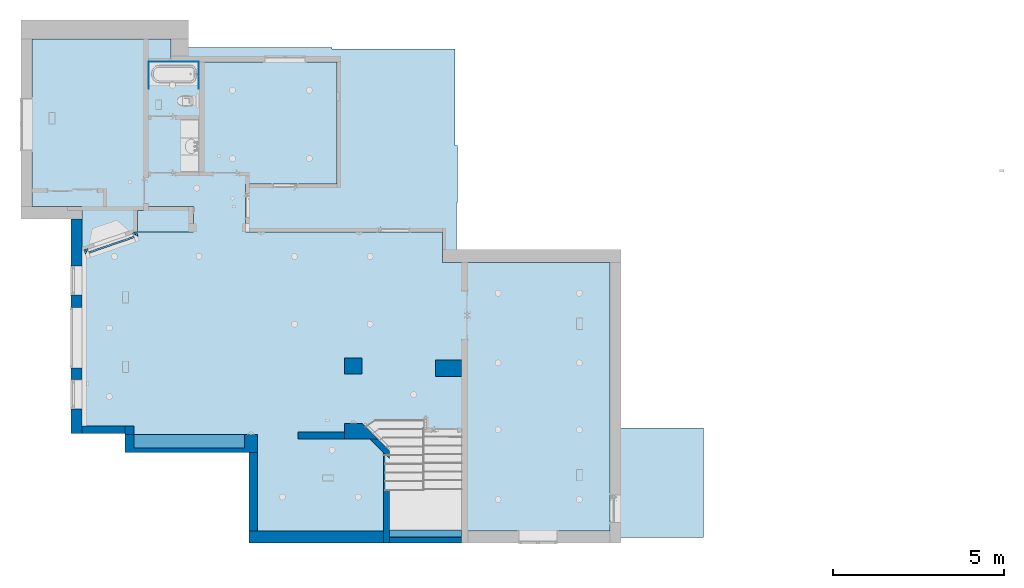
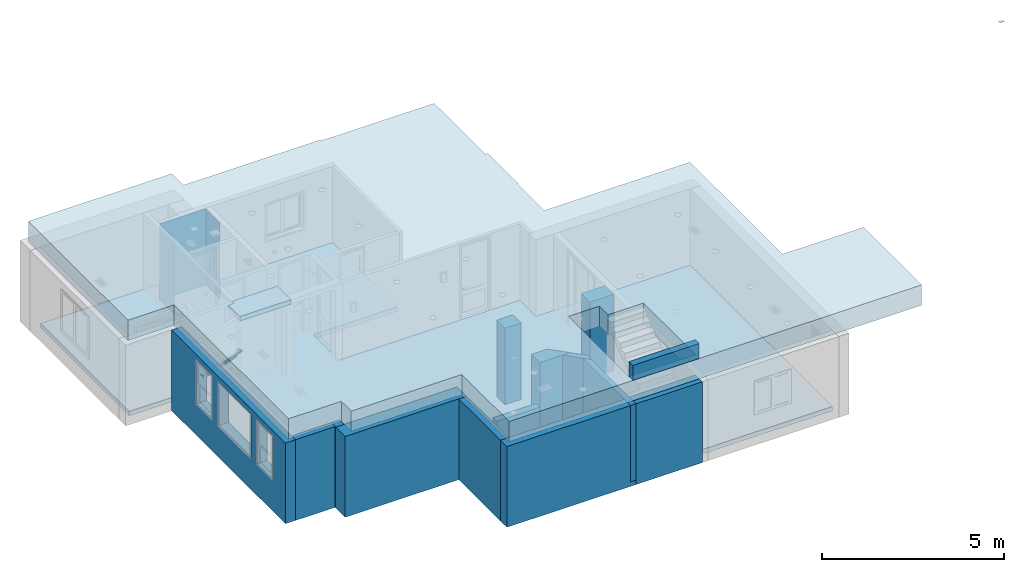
# One storey, part 1 of 24: 12 walls, 6 beams, 3 slabs, 2 columns.
"""IFC2X3 building model written with IfcOpenShell, lengths in inches."""

from ifc_helpers import new_model, entity, si_unit, converted_unit, derived_unit, money_unit, direction, frame, origin_with_axes, place, context, subcontext, project, spatial, faceted_brep, material, type_object, element, save


model = new_model("IFC2X3")

# Units and contexts
model_context = context("Model", 3, precision=0.000393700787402, world=origin_with_axes(), true_north=direction((0.0, 1.0)))
body_context = subcontext(model_context, "Body", "Model", "MODEL_VIEW")
ifc_project = project(units=[converted_unit("LENGTHUNIT", "INCH", entity("IfcPositiveLengthMeasure", 0.0254), si_unit("LENGTHUNIT", "METRE"), dimensions=[1, 0, 0, 0, 0, 0, 0]), converted_unit("AREAUNIT", "SQUARE_FOOT", entity("IfcPositiveLengthMeasure", 0.09290304), si_unit("AREAUNIT", "SQUARE_METRE"), dimensions=[2, 0, 0, 0, 0, 0, 0]), si_unit("PLANEANGLEUNIT", "RADIAN"), si_unit("SOLIDANGLEUNIT", "STERADIAN"), money_unit("USD"), converted_unit("TIMEUNIT", "Year", entity("IfcTimeMeasure", 31556926.0), si_unit("TIMEUNIT", "SECOND"), dimensions=[0, 0, 1, 0, 0, 0, 0]), si_unit("MASSUNIT", "GRAM", prefix="KILO"), si_unit("THERMODYNAMICTEMPERATUREUNIT", "DEGREE_CELSIUS"), si_unit("LUMINOUSINTENSITYUNIT", "LUMEN"), si_unit("ENERGYUNIT", "JOULE", prefix="MEGA"), derived_unit("THERMALCONDUCTANCEUNIT", [(si_unit("POWERUNIT", "WATT"), 1), (si_unit("LENGTHUNIT", "METRE"), -1), (si_unit("THERMODYNAMICTEMPERATUREUNIT", "KELVIN"), -1)]), derived_unit("SPECIFICHEATCAPACITYUNIT", [(si_unit("ENERGYUNIT", "JOULE"), 1), (si_unit("MASSUNIT", "GRAM", prefix="KILO"), -1), (si_unit("THERMODYNAMICTEMPERATUREUNIT", "KELVIN"), -1)]), derived_unit("MASSDENSITYUNIT", [(si_unit("MASSUNIT", "GRAM", prefix="KILO"), 1), (si_unit("VOLUMEUNIT", "CUBIC_METRE"), -1)])], contexts=[model_context])

# Site, building, storey
site_placement = place(None, origin_with_axes())
site = spatial("IfcSite", under=ifc_project, at=site_placement, Name="Site", CompositionType="ELEMENT")
building_placement = place(site_placement, origin_with_axes())
building = spatial("IfcBuilding", under=site, at=building_placement, Name="Building", CompositionType="ELEMENT")
storey_placement = place(building_placement, origin_with_axes())
storey = spatial("IfcBuildingStorey", under=building, at=storey_placement, Name="First Floor", CompositionType="ELEMENT", Elevation=0.0)

# Columns
ifc_material_1 = material(Name="Generic - Structural")
column_type_1 = type_object("IfcColumnType", Name="Generic - Structural 485 x 760", PredefinedType="NOTDEFINED")
column_1_placement = place(storey_placement, frame((712.090764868, 213.817471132, 0.0), z_axis=(0.0, 0.0, 1.0), x_axis=(0.0, 1.0, 0.0)))
element("IfcColumn", 1, at=column_1_placement, inside=storey, type_object=column_type_1, material=ifc_material_1, Name="C-01", context=body_context, shape_type="Brep", body=[
    faceted_brep([(-9.54724409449, -14.9606299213, 101.0), (-9.54724409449, -14.9606299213, 0.0), (9.54724409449, -14.9606299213, 0.0), (9.54724409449, -14.9606299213, 101.0), (-9.54724409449, 14.9606299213, 101.0), (-9.54724409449, 14.9606299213, 0.0), (9.54724409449, 14.9606299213, 0.0), (9.54724409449, 14.9606299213, 101.0)], [[[0, 1, 2, 3]], [[4, 5, 1, 0]], [[2, 1, 5, 6]], [[3, 2, 6, 7]], [[4, 0, 3, 7]], [[7, 6, 5, 4]]]),
])
column_type_2 = type_object("IfcColumnType", Name="Generic - Structural 455 x 510", PredefinedType="NOTDEFINED")
column_2_placement = place(storey_placement, frame((602.489171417, 216.441355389, 0.0), z_axis=(0.0, 0.0, 1.0), x_axis=(0.0, 1.0, 0.0)))
element("IfcColumn", 2, at=column_2_placement, inside=storey, type_object=column_type_2, material=ifc_material_1, Name="C-01", context=body_context, shape_type="Brep", body=[
    faceted_brep([(-8.95669291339, -10.0393700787, 101.0), (-8.95669291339, -10.0393700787, 0.0), (8.95669291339, -10.0393700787, 0.0), (8.95669291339, -10.0393700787, 101.0), (-8.95669291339, 10.0393700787, 101.0), (-8.95669291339, 10.0393700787, 0.0), (8.95669291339, 10.0393700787, 0.0), (8.95669291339, 10.0393700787, 101.0)], [[[0, 1, 2, 3]], [[4, 5, 1, 0]], [[2, 1, 5, 6]], [[3, 2, 6, 7]], [[4, 0, 3, 7]], [[7, 6, 5, 4]]]),
])

# Beams
beam_type_1 = type_object("IfcBeamType", Name="Plaster Cornice/Coving 127 x 203", PredefinedType="NOTDEFINED")
beam_1_placement = place(storey_placement, frame((297.616582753, 350.859976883, 59.0000238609), z_axis=(0.0, 0.0, 1.0), x_axis=(0.943870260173, 0.330316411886, 0.0)))
element("IfcBeam", 3, at=beam_1_placement, inside=storey, type_object=beam_type_1, material=ifc_material_1, Name="BMR - 003", context=body_context, shape_type="Brep", body=[
    faceted_brep([(-5.0000377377, -4.89337685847, -1.00000335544), (-5.0000377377, 0.872100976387, -1.00000335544), (-4.1465111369, 0.872100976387, -1.13450684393), (-4.1465111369, -4.05805769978, -1.13450684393), (-5.0000377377, -4.89337685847, 0.0), (-5.0000377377, 0.872100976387, 0.0), (-2.92895429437, 0.872100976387, 0.0), (0.0, 0.872100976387, -4.68630722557), (0.0, 0.872100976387, -8.00002684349), (-0.625004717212, 0.872100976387, -8.00002684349), (-0.707100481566, 0.872100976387, -6.65013530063), (-0.95803427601, 0.872100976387, -5.32123382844), (-1.346038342, 0.872100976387, -4.14975423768), (-1.906422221, 0.872100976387, -3.05026276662), (-2.53521723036, 0.872100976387, -2.21589584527), (-3.32578508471, 0.872100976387, -1.53284841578), (-3.32578508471, -3.25483938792, -1.53284841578), (-2.53521723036, -2.48113593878, -2.21589584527), (-1.906422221, -1.86575439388, -3.05026276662), (-1.346038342, -1.31732463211, -4.14975423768), (-0.95803427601, -0.937597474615, -5.32123382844), (-0.707100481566, -0.692016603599, -6.65013530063), (-0.625004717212, -0.611672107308, -8.00002684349), (0.0, 0.0, -8.00002684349), (0.0, 0.0, -4.68630722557), (-2.92895429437, -2.86647379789, 0.0)], [[[0, 1, 2, 3]], [[4, 5, 1, 0]], [[2, 1, 5, 6, 7, 8, 9, 10, 11, 12, 13, 14, 15]], [[3, 2, 15, 16]], [[4, 0, 3, 16, 17, 18, 19, 20, 21, 22, 23, 24, 25]], [[25, 6, 5, 4]], [[24, 7, 6, 25]], [[23, 8, 7, 24]], [[22, 9, 8, 23]], [[21, 10, 9, 22]], [[20, 11, 10, 21]], [[19, 12, 11, 20]], [[18, 13, 12, 19]], [[17, 14, 13, 18]], [[16, 15, 14, 17]]]),
])
beam_2_placement = place(storey_placement, frame((348.685584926, 368.412037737, 59.0000238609), z_axis=(0.0, 0.0, 1.0), x_axis=(0.943800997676, 0.330514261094, 0.0)))
element("IfcBeam", 4, at=beam_2_placement, inside=storey, type_object=beam_type_1, material=ifc_material_1, Name="BMR - 003", context=body_context, shape_type="Brep", body=[
    faceted_brep([(5.0000377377, -4.95036833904, 0.0), (5.0000377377, 1.17416230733, 0.0), (2.92895429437, 1.17416230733, 0.0), (2.92895429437, -2.89985863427, 0.0), (5.0000377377, -4.95036833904, -1.00000335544), (5.0000377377, 1.17416230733, -1.00000335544), (4.1465111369, 1.17416230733, -1.13450684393), (3.32578508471, 1.17416230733, -1.53284841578), (2.53521723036, 1.17416230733, -2.21589584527), (1.906422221, 1.17416230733, -3.05026276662), (1.346038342, 1.17416230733, -4.14975423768), (0.95803427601, 1.17416230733, -5.32123382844), (0.707100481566, 1.17416230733, -6.65013530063), (0.625004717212, 1.17416230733, -8.00002684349), (0.0, 1.17416230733, -8.00002684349), (0.0, 1.17416230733, -4.68630722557), (0.0, 0.0, -4.68630722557), (0.0, 0.0, -8.00002684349), (0.625004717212, -0.61879604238, -8.00002684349), (0.707100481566, -0.70007628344, -6.65013530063), (0.95803427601, -0.948517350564, -5.32123382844), (1.346038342, -1.33266705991, -4.14975423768), (1.906422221, -1.88748419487, -3.05026276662), (2.53521723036, -2.51003287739, -2.21589584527), (3.32578508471, -3.29274738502, -1.53284841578), (4.1465111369, -4.10532050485, -1.13450684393)], [[[0, 1, 2, 3]], [[4, 5, 1, 0]], [[2, 1, 5, 6, 7, 8, 9, 10, 11, 12, 13, 14, 15]], [[3, 2, 15, 16]], [[4, 0, 3, 16, 17, 18, 19, 20, 21, 22, 23, 24, 25]], [[25, 6, 5, 4]], [[24, 7, 6, 25]], [[23, 8, 7, 24]], [[22, 9, 8, 23]], [[21, 10, 9, 22]], [[20, 11, 10, 21]], [[19, 12, 11, 20]], [[18, 13, 12, 19]], [[17, 14, 13, 18]], [[16, 15, 14, 17]]]),
])
ifc_material_2 = material(Name="Tile - Wall")
beam_type_2 = type_object("IfcBeamType", Name="Tile - Wall 5 x 2555", PredefinedType="NOTDEFINED")
beam_3_placement = place(storey_placement, frame((425.065599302, 535.407172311, 0.0), z_axis=(0.0, 0.0, 1.0), x_axis=(0.999999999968, -7.9976512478e-06, 0.0)))
element("IfcBeam", 5, at=beam_3_placement, inside=storey, type_object=beam_type_2, material=ifc_material_2, Name="BMR - 005", context=body_context, shape_type="Brep", body=[
    faceted_brep([(0.0, 0.0, 0.0), (-0.196850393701, 0.0, 0.0), (-0.196850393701, 30.8466322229, 0.0), (0.0, 31.0434842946, 0.0), (0.0, 0.0, 100.590551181), (-0.196850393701, 0.0, 100.590551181), (-0.196850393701, 30.8466322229, 100.590551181), (0.0, 31.0434842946, 100.590551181)], [[[0, 1, 2, 3]], [[4, 5, 1, 0]], [[1, 5, 6, 2]], [[7, 3, 2, 6]], [[4, 0, 3, 7]], [[5, 4, 7, 6]]]),
])
beam_4_placement = place(storey_placement, frame((366.989643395, 566.450626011, 0.0), z_axis=(0.0, 0.0, 1.0), x_axis=(-1.0, 0.0, 0.0)))
element("IfcBeam", 6, at=beam_4_placement, inside=storey, type_object=beam_type_2, material=ifc_material_2, Name="BMR - 007", context=body_context, shape_type="Brep", body=[
    faceted_brep([(0.0, 0.0, 0.0), (-0.196850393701, 0.196850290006, 0.0), (-0.196850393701, 31.0434537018, 0.0), (0.0, 31.0434537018, 0.0), (0.0, 0.0, 100.590551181), (-0.196850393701, 0.196850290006, 100.590551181), (-0.196850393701, 31.0434537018, 100.590551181), (0.0, 31.0434537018, 100.590551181)], [[[0, 1, 2, 3]], [[4, 5, 1, 0]], [[1, 5, 6, 2]], [[7, 3, 2, 6]], [[4, 0, 3, 7]], [[5, 4, 7, 6]]]),
])
beam_5_placement = place(storey_placement, frame((425.065847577, 566.450656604, 0.0), z_axis=(0.0, 0.0, 1.0), x_axis=(-5.26771327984e-07, 1.0, 0.0)))
element("IfcBeam", 7, at=beam_5_placement, inside=storey, type_object=beam_type_2, material=ifc_material_2, Name="BMR - 006", context=body_context, shape_type="Brep", body=[
    faceted_brep([(0.0, 58.0762041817, 0.0), (0.0, 0.0, 0.0), (-0.196850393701, 0.196852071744, 0.0), (-0.196850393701, 57.8793538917, 0.0), (0.0, 58.0762041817, 100.590551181), (0.0, 0.0, 100.590551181), (-0.196850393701, 0.196852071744, 100.590551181), (-0.196850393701, 57.8793538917, 100.590551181)], [[[0, 1, 2, 3]], [[4, 5, 1, 0]], [[1, 5, 6, 2]], [[3, 2, 6, 7]], [[7, 4, 0, 3]], [[7, 6, 5, 4]]]),
])
beam_type_3 = type_object("IfcBeamType", Name="Plaster Cornice/Coving 125 x 205", PredefinedType="NOTDEFINED")
beam_6_placement = place(storey_placement, frame((348.685584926, 368.412037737, 59.0000238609), z_axis=(0.0, 0.0, 1.0), x_axis=(-0.325031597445, 0.945703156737, 0.0)))
element("IfcBeam", 8, at=beam_6_placement, inside=storey, type_object=beam_type_3, material=ifc_material_1, Name="BMR - 003", context=body_context, shape_type="Brep", body=[
    faceted_brep([(-4.92126859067, -5.02868168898, -1.0088593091), (-4.92126859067, 58.9736787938, -1.0088593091), (-4.08118820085, 58.1248379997, -1.14455395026), (-4.08118820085, -4.17026545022, -1.14455395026), (-4.92126859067, -5.02868168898, 0.0), (-4.92126859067, 58.9736787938, 0.0), (-2.88281239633, 56.9139654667, 0.0), (0.0, 54.0010909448, -4.72780880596), (0.0, 54.0010909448, -8.07087447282), (-0.615158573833, 54.6226644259, -8.07087447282), (-0.695899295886, 54.7042471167, -6.70953116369), (-0.942941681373, 54.9538656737, -5.36835827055), (-1.32421398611, 55.3391139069, -4.18800183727), (-1.87638899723, 55.8970470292, -3.07727566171), (-2.49342577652, 56.5205183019, -2.23750773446), (-3.27339162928, 57.3086176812, -1.54642320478), (-3.27339162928, -3.3448376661, -1.54642320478), (-2.49342577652, -2.54784804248, -2.23750773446), (-1.87638899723, -1.91734363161, -3.07727566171), (-1.32421398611, -1.35311668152, -4.18800183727), (-0.942941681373, -0.963522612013, -5.36835827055), (-0.695899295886, -0.711088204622, -6.70953116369), (-0.615158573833, -0.628585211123, -8.07087447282), (0.0, 0.0, -8.07087447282), (0.0, 0.0, -4.72780880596), (-2.88281239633, -2.94573353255, 0.0)], [[[0, 1, 2, 3]], [[4, 5, 1, 0]], [[2, 1, 5, 6, 7, 8, 9, 10, 11, 12, 13, 14, 15]], [[3, 2, 15, 16]], [[4, 0, 3, 16, 17, 18, 19, 20, 21, 22, 23, 24, 25]], [[25, 6, 5, 4]], [[24, 7, 6, 25]], [[23, 8, 7, 24]], [[22, 9, 8, 23]], [[21, 10, 9, 22]], [[20, 11, 10, 21]], [[19, 12, 11, 20]], [[18, 13, 12, 19]], [[17, 14, 13, 18]], [[16, 15, 14, 17]]]),
])

# Slabs
slab_type_1 = type_object("IfcSlabType", Name="Generic - Structural 685", PredefinedType="FLOOR")
slab_1_placement = place(storey_placement, frame((226.697702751, 391.907623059, 101.0), z_axis=(0.0, 0.0, 1.0), x_axis=(1.0, 0.0, 0.0)))
element("IfcSlab", 9, at=slab_1_placement, inside=storey, type_object=slab_type_1, material=ifc_material_1, Name="SLA - 002", PredefinedType="FLOOR", context=body_context, shape_type="Brep", body=[
    faceted_brep([(57.7500041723, 1.1604290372e-05, 26.968503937), (0.0, 0.0, 26.968503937), (0.0, 0.0, 0.0), (57.7500041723, 1.1604290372e-05, 0.0), (180.00000773, 215.999997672, 26.968503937), (0.0, 215.999997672, 26.968503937), (57.7500041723, -248.499994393, 26.968503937), (123.749997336, -248.499994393, 26.968503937), (123.749997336, -269.999994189, 26.968503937), (262.249999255, -269.999994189, 26.968503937), (262.249999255, -372.499994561, 26.968503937), (778.75, -372.499994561, 26.968503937), (778.75, -246.749997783, 26.968503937), (677.249999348, -246.749997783, 26.968503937), (677.249999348, -45.999998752, 26.968503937), (494.749998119, -45.999998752, 26.968503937), (494.749998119, 12.5315659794, 26.968503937), (495.749997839, 12.5315659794, 26.968503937), (495.749997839, 78.0000014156, 26.968503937), (492.749998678, 78.0000014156, 26.968503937), (492.749998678, 189.000005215, 26.968503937), (351.249997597, 189.000005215, 26.968503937), (351.249997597, 191.000004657, 26.968503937), (180.00000773, 191.000004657, 26.968503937), (500.358272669, -363.999988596, 26.968503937), (417.291940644, -363.999991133, 26.968503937), (417.291940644, -232.726786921, 26.968503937), (456.226925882, -232.726786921, 26.968503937), (456.226925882, -251.499999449, 26.968503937), (500.355635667, -251.499996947, 26.968503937), (0.0, 215.999997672, 0.0), (57.7500041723, -248.499994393, 0.0), (180.00000773, 215.999997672, 0.0), (180.00000773, 191.000004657, 0.0), (351.249997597, 191.000004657, 0.0), (351.249997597, 189.000005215, 0.0), (492.749998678, 189.000005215, 0.0), (492.749998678, 78.0000014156, 0.0), (495.749997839, 78.0000014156, 0.0), (495.749997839, 12.5315659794, 0.0), (494.749998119, 12.5315659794, 0.0), (494.749998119, -45.999998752, 0.0), (677.249999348, -45.999998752, 0.0), (677.249999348, -246.749997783, 0.0), (778.75, -246.749997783, 0.0), (778.75, -372.499994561, 0.0), (262.249999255, -372.499994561, 0.0), (262.249999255, -269.999994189, 0.0), (123.749997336, -269.999994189, 0.0), (123.749997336, -248.499994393, 0.0), (456.226925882, -251.499999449, 0.0), (456.226925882, -232.726786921, 0.0), (417.291940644, -232.726786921, 0.0), (417.291940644, -363.999991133, 0.0), (500.358272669, -363.999988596, 0.0), (500.355635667, -251.499996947, 0.0)], [[[0, 1, 2, 3]], [[4, 5, 1, 0, 6, 7, 8, 9, 10, 11, 12, 13, 14, 15, 16, 17, 18, 19, 20, 21, 22, 23], [24, 25, 26, 27, 28, 29]], [[1, 5, 30, 2]], [[31, 3, 2, 30, 32, 33, 34, 35, 36, 37, 38, 39, 40, 41, 42, 43, 44, 45, 46, 47, 48, 49], [50, 51, 52, 53, 54, 55]], [[6, 0, 3, 31]], [[5, 4, 32, 30]], [[7, 6, 31, 49]], [[8, 7, 49, 48]], [[9, 8, 48, 47]], [[10, 9, 47, 46]], [[11, 10, 46, 45]], [[12, 11, 45, 44]], [[13, 12, 44, 43]], [[14, 13, 43, 42]], [[15, 14, 42, 41]], [[16, 15, 41, 40]], [[17, 16, 40, 39]], [[18, 17, 39, 38]], [[19, 18, 38, 37]], [[20, 19, 37, 36]], [[21, 20, 36, 35]], [[22, 21, 35, 34]], [[23, 22, 34, 33]], [[4, 23, 33, 32]], [[25, 24, 54, 53]], [[26, 25, 53, 52]], [[27, 26, 52, 51]], [[28, 27, 51, 50]], [[29, 28, 50, 55]], [[24, 29, 55, 54]]]),
])
slab_type_2 = type_object("IfcSlabType", Name="Generic - Structural 152", PredefinedType="FLOOR")
slab_2_placement = place(storey_placement, frame((354.456205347, 395.411041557, 95.0), z_axis=(0.0, 0.0, 1.0), x_axis=(1.0, 0.0, 0.0)))
element("IfcSlab", 10, at=slab_2_placement, inside=storey, type_object=slab_type_2, material=ifc_material_1, Name="SLA - 003", PredefinedType="FLOOR", context=body_context, shape_type="Brep", body=[
    faceted_brep([(0.0, 0.0, 6.0), (0.0, 0.0, 0.0), (-1.95694309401e-07, -25.0038690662, 0.0), (-1.95694309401e-07, -25.0038690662, 6.0), (7.03343836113, -0.00386958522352, 6.0), (7.03343836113, -0.00386958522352, 0.0), (7.03343836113, 4.49613071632, 0.0), (64.1652344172, 4.52778094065, 0.0), (64.1652344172, -25.0038692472, 0.0), (64.1652344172, -25.0038692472, 6.0), (64.1652344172, 4.52778094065, 6.0), (7.03343836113, 4.49613071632, 6.0)], [[[0, 1, 2, 3]], [[4, 5, 1, 0]], [[2, 1, 5, 6, 7, 8]], [[3, 2, 8, 9]], [[4, 0, 3, 9, 10, 11]], [[11, 6, 5, 4]], [[10, 7, 6, 11]], [[9, 8, 7, 10]]]),
])
slab_type_3 = type_object("IfcSlabType", Name="Generic Floor/Ceiling Slab 150mm 150", PredefinedType="FLOOR")
slab_3_placement = place(storey_placement, frame((232.930392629, 592.442621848, 0.0), z_axis=(0.0, 0.0, 1.0), x_axis=(1.0, 0.0, 0.0)))
element("IfcSlab", 11, at=slab_3_placement, inside=storey, type_object=slab_type_3, material=ifc_material_1, Name="S-01", PredefinedType="FLOOR", context=body_context, shape_type="Brep", body=[
    faceted_brep([(0.0, -192.535449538, 0.0), (0.0, 0.0, 0.0), (0.0, 0.0, -5.90551181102), (0.0, -192.535449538, -5.90551181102), (159.809250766, -25.9919652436, 0.0), (159.847483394, 0.0, 0.0), (57.5033645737, -192.535448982, 0.0), (57.5008519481, -445.280194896, 0.0), (117.559250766, -445.280298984, 0.0), (117.559250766, -470.534992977, 0.0), (259.300477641, -470.534992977, 0.0), (259.300477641, -565.755538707, 0.0), (411.059250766, -565.784992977, 0.0), (411.058778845, -573.035449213, 0.0), (494.125782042, -573.03544798, 0.0), (494.125782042, -565.535458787, 0.0), (665.189555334, -565.559071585, 0.0), (665.189555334, -256.888185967, 0.0), (472.058778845, -256.888185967, 0.0), (472.058778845, -222.035449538, 0.0), (245.558778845, -222.035449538, 0.0), (245.480946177, -166.537294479, 0.0), (350.984760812, -166.535449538, 0.0), (350.984760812, -25.9919652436, 0.0), (159.847483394, 0.0, -5.90551181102), (57.5033645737, -192.535448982, -5.90551181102), (159.809250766, -25.9919652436, -5.90551181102), (350.984760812, -25.9919652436, -5.90551181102), (350.984760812, -166.535449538, -5.90551181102), (245.480946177, -166.537294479, -5.90551181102), (245.558778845, -222.035449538, -5.90551181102), (472.058778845, -222.035449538, -5.90551181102), (472.058778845, -256.888185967, -5.90551181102), (665.189555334, -256.888185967, -5.90551181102), (665.189555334, -565.559071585, -5.90551181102), (494.125782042, -565.535458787, -5.90551181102), (494.125782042, -573.03544798, -5.90551181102), (411.058778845, -573.035449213, -5.90551181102), (411.059250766, -565.784992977, -5.90551181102), (259.300477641, -565.755538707, -5.90551181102), (259.300477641, -470.534992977, -5.90551181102), (117.559250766, -470.534992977, -5.90551181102), (117.559250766, -445.280298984, -5.90551181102), (57.5008519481, -445.280194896, -5.90551181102)], [[[0, 1, 2, 3]], [[4, 5, 1, 0, 6, 7, 8, 9, 10, 11, 12, 13, 14, 15, 16, 17, 18, 19, 20, 21, 22, 23]], [[1, 5, 24, 2]], [[25, 3, 2, 24, 26, 27, 28, 29, 30, 31, 32, 33, 34, 35, 36, 37, 38, 39, 40, 41, 42, 43]], [[6, 0, 3, 25]], [[5, 4, 26, 24]], [[7, 6, 25, 43]], [[8, 7, 43, 42]], [[9, 8, 42, 41]], [[10, 9, 41, 40]], [[11, 10, 40, 39]], [[12, 11, 39, 38]], [[13, 12, 38, 37]], [[14, 13, 37, 36]], [[15, 14, 36, 35]], [[16, 15, 35, 34]], [[17, 16, 34, 33]], [[18, 17, 33, 32]], [[19, 18, 32, 31]], [[20, 19, 31, 30]], [[21, 20, 30, 29]], [[22, 21, 29, 28]], [[23, 22, 28, 27]], [[4, 23, 27, 26]]]),
])

# Walls
wall_type_1 = type_object("IfcWallType", Name="Generic - Structural 165", PredefinedType="NOTDEFINED")
wall_1_placement = place(storey_placement, frame((643.989643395, 118.907634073, 0.0), z_axis=(0.0, 0.0, 1.0), x_axis=(0.0, -1.0, 0.0)))
element("IfcWall", 12, at=wall_1_placement, inside=storey, type_object=wall_type_1, material=ifc_material_1, Name="SW - 036", context=body_context, shape_type="Brep", body=[
    faceted_brep([(2.68494163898, -6.5, 0.0), (2.68494163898, -6.5, 101.0), (9.21042582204, 0.0, 101.0), (9.21042582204, 0.0, 0.0), (99.5000055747, -6.5, 101.0), (106.000020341, -6.5, 0.0), (106.000014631, -6.5, 100.984251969), (99.500023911, -6.5, 100.984251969), (99.5000055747, 0.0, 101.0), (91.0000021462, 0.0, 101.0), (99.5000048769, 0.0, 100.984251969), (106.000046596, 0.0, 100.984251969), (106.000038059, 0.0, 0.0)], [[[0, 1, 2, 3]], [[4, 1, 0, 5, 6, 7]], [[8, 9, 2, 1, 4]], [[3, 2, 9, 8, 10, 11, 12]], [[12, 5, 0, 3]], [[5, 12, 11, 6]], [[7, 6, 11, 10]], [[10, 8, 4, 7]]]),
])
wall_2_placement = place(storey_placement, frame((612.612666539, 150.407628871, 0.0), z_axis=(0.0, 0.0, 1.0), x_axis=(0.70572198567, -0.70848887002, 0.0)))
element("IfcWall", 13, at=wall_2_placement, inside=storey, type_object=wall_type_1, material=ifc_material_1, Name="SW - 035", context=body_context, shape_type="Brep", body=[
    faceted_brep([(44.460818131, 0.0, 0.0), (50.9863023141, -6.5, 0.0), (18.8093186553, -6.5, 0.0), (25.2839339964, 0.0, 0.0), (44.460818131, 0.0, 101.0), (50.9863023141, -6.5, 101.0), (18.8093186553, -6.5, 101.0), (25.2839339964, 0.0, 101.0)], [[[0, 1, 2, 3]], [[1, 0, 4, 5]], [[1, 5, 6, 2]], [[7, 3, 2, 6]], [[4, 0, 3, 7]], [[5, 4, 7, 6]]]),
])
wall_type_2 = type_object("IfcWallType", Name="Generic - Structural 205", PredefinedType="NOTDEFINED")
wall_3_placement = place(storey_placement, frame((592.719564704, 140.565109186, 0.0), z_axis=(0.0, 0.0, 1.0), x_axis=(-1.0, 0.0, 0.0)))
element("IfcWall", 14, at=wall_3_placement, inside=storey, type_object=wall_type_2, material=ifc_material_1, Name="SW - 073", context=body_context, shape_type="Brep", body=[
    faceted_brep([(0.0, 0.0, 42.0), (53.9240973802, 0.0, 42.0), (53.9240973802, 8.07086614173, 42.0), (0.0, 8.07086614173, 42.0), (0.0, 0.0, 0.0), (53.9240973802, 0.0, 0.0), (53.9240973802, 8.07086614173, 0.0), (0.0, 8.07086614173, 0.0)], [[[0, 1, 2, 3]], [[4, 5, 1, 0]], [[2, 1, 5, 6]], [[3, 2, 6, 7]], [[4, 0, 3, 7]], [[7, 6, 5, 4]]]),
])
wall_type_3 = type_object("IfcWallType", Name="Generic - Structural 350", PredefinedType="NOTDEFINED")
wall_4_placement = place(storey_placement, frame((492.23087027, 26.6870831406, -5.90551181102), z_axis=(0.0, 0.0, 1.0), x_axis=(1.0, 0.0, 0.0)))
element("IfcWall", 15, at=wall_4_placement, inside=storey, type_object=wall_type_3, material=ifc_material_1, Name="SW - 026", context=body_context, shape_type="Brep", body=[
    faceted_brep([(151.758773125, -13.7795275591, 0.0), (151.758773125, -0.0294542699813, 0.0), (151.758773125, -0.0294542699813, 5.90551181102), (151.758773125, -13.7794871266, 5.90551181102), (-9.84251968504, 0.0, 0.0), (0.0, 0.0, 0.0), (-9.84251968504, -13.7795275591, 0.0), (0.0, 0.0, 5.90551181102), (145.258773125, -0.0281927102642, 5.90551181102), (145.258773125, -13.7794694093, 5.90551181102), (-9.84251968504, -13.7795275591, 106.88976378), (145.258773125, -13.7794636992, 106.88976378), (145.258773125, 0.0, 5.90551181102), (-9.84251968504, 0.0, 106.88976378), (145.258773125, 0.0, 106.88976378)], [[[0, 1, 2, 3]], [[4, 5, 1, 0, 6]], [[7, 8, 2, 1, 5]], [[3, 2, 8, 9]], [[10, 6, 0, 3, 9, 11]], [[12, 7, 5, 4, 13, 14]], [[6, 10, 13, 4]], [[8, 7, 12]], [[9, 8, 12, 14, 11]], [[11, 14, 13, 10]]]),
])
wall_type_4 = type_object("IfcWallType", Name="Generic - Structural 455", PredefinedType="NOTDEFINED")
wall_5_placement = place(storey_placement, frame((612.612666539, 150.407628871, 0.0), z_axis=(0.0, 0.0, 1.0), x_axis=(-1.0, 0.0, 0.0)))
element("IfcWall", 16, at=wall_5_placement, inside=storey, type_object=wall_type_4, material=ifc_material_1, Name="SW - 068", context=body_context, shape_type="Brep", body=[
    faceted_brep([(0.0, 0.0, 101.0), (19.8935502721, 0.0, 101.0), (19.8935502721, 17.9133858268, 101.0), (-17.8434281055, 17.9133858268, 101.0), (0.0, 0.0, 0.0), (19.8935502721, 0.0, 0.0), (19.8935502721, 17.9133858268, 0.0), (-17.8434281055, 17.9133858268, 0.0)], [[[0, 1, 2, 3]], [[4, 5, 1, 0]], [[2, 1, 5, 6]], [[3, 2, 6, 7]], [[4, 0, 3, 7]], [[7, 6, 5, 4]]]),
])
wall_type_5 = type_object("IfcWallType", Name="Generic - Structural 250", PredefinedType="NOTDEFINED")
wall_6_placement = place(storey_placement, frame((492.23087027, 137.503689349, -5.90551181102), z_axis=(0.0, 0.0, 1.0), x_axis=(0.0, -1.0, 0.0)))
element("IfcWall", 17, at=wall_6_placement, inside=storey, type_object=wall_type_5, material=ifc_material_1, Name="SW - 025", context=body_context, shape_type="Brep", body=[
    faceted_brep([(110.816606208, 0.0, 106.88976378), (110.816606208, 0.0, 0.0), (20.4724409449, 0.0, 0.0), (20.4724409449, 0.0, 106.88976378), (110.816606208, -9.84251968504, 106.88976378), (110.816606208, -9.84251968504, 0.0), (20.4724409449, -9.84251968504, 0.0), (20.4724409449, -9.84251968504, 106.88976378)], [[[0, 1, 2, 3]], [[4, 5, 1, 0]], [[1, 5, 6, 2]], [[2, 6, 7, 3]], [[4, 0, 3, 7]], [[5, 4, 7, 6]]]),
])
wall_type_6 = type_object("IfcWallType", Name="Generic - Structural 520", PredefinedType="NOTDEFINED")
wall_7_placement = place(storey_placement, frame((350.489643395, 137.503689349, -5.90551181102), z_axis=(0.0, 0.0, 1.0), x_axis=(1.0, 0.0, 0.0)))
element("IfcWall", 18, at=wall_7_placement, inside=storey, type_object=wall_type_6, material=ifc_material_1, Name="SW - 022", context=body_context, shape_type="Brep", body=[
    faceted_brep([(141.741226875, -20.4724409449, 0.0), (141.741226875, -15.596060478, 0.0), (141.741226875, -15.596060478, 5.90551181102), (141.741226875, 0.0, 5.90551181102), (141.741226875, 0.0, 106.88976378), (141.741226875, -20.4724409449, 106.88976378), (0.0, 0.0, 0.0), (0.0, -15.596060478, 0.0), (-10.4330708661, -20.4724409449, 0.0), (-10.4330708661, 0.0, 0.0), (0.0, -15.596060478, 5.90551181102), (0.0, 0.0, 5.90551181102), (-10.4330708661, 0.0, 106.88976378), (126.984251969, 0.0, 99.4094488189), (0.015748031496, 0.0, 99.4094488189), (0.015748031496, 0.0, 33.8582677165), (126.984251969, 0.0, 33.8582677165), (-10.4330708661, -20.4724409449, 106.88976378), (126.984251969, -15.5332503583, 99.4094488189), (0.015748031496, -15.5332503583, 99.4094488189), (0.015748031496, -15.5332503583, 33.8582677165), (126.984251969, -15.5332503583, 33.8582677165)], [[[0, 1, 2, 3, 4, 5]], [[6, 7, 1, 0, 8, 9]], [[10, 2, 1, 7]], [[10, 11, 3, 2]], [[3, 11, 6, 9, 12, 4], [13, 14, 15, 16]], [[12, 17, 5, 4]], [[17, 8, 0, 5]], [[7, 6, 11, 10]], [[8, 17, 12, 9]], [[18, 19, 14, 13]], [[19, 20, 15, 14]], [[20, 21, 16, 15]], [[21, 18, 13, 16]], [[21, 20, 19, 18]]]),
])
wall_type_7 = type_object("IfcWallType", Name="Generic - Structural 320", PredefinedType="NOTDEFINED")
wall_8_placement = place(storey_placement, frame((290.433757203, 399.938601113, -5.90551181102), z_axis=(0.0, 0.0, 1.0), x_axis=(-9.94012117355e-06, -0.999999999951, 0.0)))
element("IfcWall", 19, at=wall_8_placement, inside=storey, type_object=wall_type_7, material=ifc_material_1, Name="SW - 019", context=body_context, shape_type="Brep", body=[
    faceted_brep([(14.5670549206, -12.5984251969, 0.0), (261.240844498, -12.5984251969, 0.0), (261.240844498, -12.5984251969, 106.88976378), (14.5670549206, -12.5984251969, 106.88976378), (68.2939270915, -12.5984251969, 99.0157480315), (101.758494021, -12.5984251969, 99.0157480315), (101.758494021, -12.5984251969, 41.9291338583), (68.2939270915, -12.5984251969, 41.9291338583), (199.241850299, -12.5984251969, 41.9291338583), (199.241850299, -12.5984251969, 99.0157480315), (232.706417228, -12.5984251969, 99.0157480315), (232.706417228, -12.5984251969, 41.9291338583), (186.042499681, -12.5984251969, 41.9291338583), (115.963759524, -12.5984251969, 41.9291338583), (115.963759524, -12.5984251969, 99.0157480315), (186.042499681, -12.5984251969, 99.0157480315), (14.5669296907, 0.0, 0.0), (261.240741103, 0.0, 0.0), (261.240741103, 0.0, 106.88976378), (14.5669296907, 0.0, 106.88976378), (68.2939270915, 0.0, 99.0157480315), (101.758494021, 0.0, 99.0157480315), (101.758494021, 0.0, 41.9291338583), (68.2939270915, 0.0, 41.9291338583), (199.241850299, 0.0, 99.0157480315), (199.241850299, 0.0, 41.9291338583), (232.706417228, 0.0, 99.0157480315), (232.706417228, 0.0, 41.9291338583), (186.042499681, 0.0, 41.9291338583), (115.963759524, 0.0, 41.9291338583), (115.963759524, 0.0, 99.0157480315), (186.042499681, 0.0, 99.0157480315)], [[[0, 1, 2, 3], [4, 5, 6, 7], [8, 9, 10, 11], [12, 13, 14, 15]], [[16, 17, 1, 0]], [[17, 18, 2, 1]], [[3, 2, 18, 19]], [[19, 16, 0, 3]], [[5, 4, 20, 21]], [[6, 5, 21, 22]], [[7, 6, 22, 23]], [[4, 7, 23, 20]], [[24, 9, 8, 25]], [[26, 10, 9, 24]], [[27, 11, 10, 26]], [[25, 8, 11, 27]], [[28, 29, 13, 12]], [[29, 30, 14, 13]], [[30, 31, 15, 14]], [[31, 28, 12, 15]], [[18, 17, 16, 19], [20, 23, 22, 21], [26, 24, 25, 27], [28, 31, 30, 29]]]),
])
wall_type_8 = type_object("IfcWallType", Name="Generic - Structural 215", PredefinedType="NOTDEFINED")
wall_9_placement = place(storey_placement, frame((290.431244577, 147.162426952, -5.90551181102), z_axis=(0.0, 0.0, 1.0), x_axis=(0.999999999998, -1.73312016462e-06, 0.0)))
element("IfcWall", 20, at=wall_9_placement, inside=storey, type_object=wall_type_8, material=ifc_material_1, Name="SW - 020", context=body_context, shape_type="Brep", body=[
    faceted_brep([(49.6253279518, 0.0, 0.0), (49.6253426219, -8.46456692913, 0.0), (-6.94687093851e-05, -8.46456692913, 0.0), (0.0, 0.0, 0.0), (49.6253279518, 0.0, 106.88976378), (49.6253426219, -8.46456692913, 106.88976378), (-6.94687093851e-05, -8.46456692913, 106.88976378), (0.0, 0.0, 106.88976378)], [[[0, 1, 2, 3]], [[1, 0, 4, 5]], [[1, 5, 6, 2]], [[7, 3, 2, 6]], [[4, 0, 3, 7]], [[5, 4, 7, 6]]]),
])
wall_10_placement = place(storey_placement, frame((643.989643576, 27.907168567, 67.9133858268), z_axis=(0.0, 0.0, 1.0), x_axis=(1.0, 4.68579156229e-08, 0.0)))
element("IfcWall", 21, at=wall_10_placement, inside=storey, type_object=wall_type_8, material=ifc_material_1, Name="SW - 024", context=body_context, shape_type="Brep", body=[
    faceted_brep([(-1.81148534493e-07, 0.0, 0.0), (-1.81148534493e-07, 0.0, 33.0866141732), (83.0000003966, -3.88920701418e-06, 33.0866141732), (83.0000003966, -3.88920701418e-06, 0.0), (-5.77780483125e-07, -8.46456692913, 0.0), (-5.77780483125e-07, -8.46456692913, 33.0866141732), (83.0, -8.46457081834, 33.0866141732), (83.0, -8.46457081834, 0.0)], [[[0, 1, 2, 3]], [[4, 5, 1, 0]], [[5, 6, 2, 1]], [[3, 2, 6, 7]], [[3, 7, 4, 0]], [[7, 6, 5, 4]]]),
    faceted_brep([(83.0, -8.46457081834, 79.9212598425), (83.0, -8.46457081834, 60.0551181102), (83.0000003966, -3.88920701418e-06, 60.0551181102), (83.0000003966, -3.88920701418e-06, 79.9212598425), (0.0, -8.46456692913, 79.9212598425), (-5.77322826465e-07, -8.46456692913, 60.0551181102), (-1.80690877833e-07, 0.0, 60.0551181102), (3.96631948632e-07, 0.0, 79.9212598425)], [[[0, 1, 2, 3]], [[4, 5, 1, 0]], [[5, 6, 2, 1]], [[3, 2, 6, 7]], [[4, 0, 3, 7]], [[7, 6, 5, 4]]]),
])
wall_type_9 = type_object("IfcWallType", Name="Generic - Structural 265", PredefinedType="NOTDEFINED")
wall_11_placement = place(storey_placement, frame((350.489643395, 147.162322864, -5.90551181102), z_axis=(0.0, 0.0, 1.0), x_axis=(0.0, -1.0, 0.0)))
element("IfcWall", 22, at=wall_11_placement, inside=storey, type_object=wall_type_9, material=ifc_material_1, Name="SW - 021", context=body_context, shape_type="Brep", body=[
    faceted_brep([(-1.80817654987e-05, -10.4330708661, 106.88976378), (9.65863351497, -10.4330708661, 106.88976378), (9.65863351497, 0.0, 106.88976378), (0.0, 0.0, 106.88976378), (-1.80817654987e-05, -10.4330708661, 0.0), (9.65863351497, -10.4330708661, 0.0), (9.65863351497, 0.0, 0.0), (0.0, 0.0, 0.0)], [[[0, 1, 2, 3]], [[4, 5, 1, 0]], [[5, 6, 2, 1]], [[3, 2, 6, 7]], [[4, 0, 3, 7]], [[7, 6, 5, 4]]]),
])
wall_type_10 = type_object("IfcWallType", Name="Generic Wall 6.5\" 165", PredefinedType="NOTDEFINED")
wall_12_placement = place(storey_placement, frame((643.989643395, 19.407596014, -5.90551181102), z_axis=(0.0, 0.0, 1.0), x_axis=(0.999999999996, -2.72574101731e-06, 0.0)))
element("IfcWall", 23, at=wall_12_placement, inside=storey, type_object=wall_type_10, material=ifc_material_1, Name="SW - 037", context=body_context, shape_type="Brep", body=[
    faceted_brep([(83.0665312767, 0.0, 106.88976378), (83.0665312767, 0.0, 0.0), (0.0, 0.0, 0.0), (0.0, 0.0, 5.90551181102), (0.0, 0.0, 106.88976378), (83.066548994, -6.5, 106.88976378), (83.066548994, -6.5, 0.0), (0.0, -6.5, 0.0), (1.77173166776e-05, -6.5, 5.90551181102), (1.77173398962e-05, -6.50000853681, 106.88976378)], [[[0, 1, 2, 3, 4]], [[0, 5, 6, 1]], [[7, 2, 1, 6]], [[3, 2, 7, 8, 9, 4]], [[9, 5, 0, 4]], [[7, 6, 5, 9, 8]]]),
])

save(model, "model.ifc")
